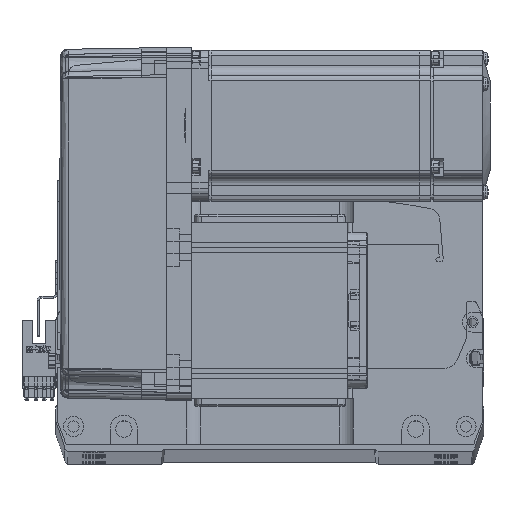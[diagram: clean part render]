
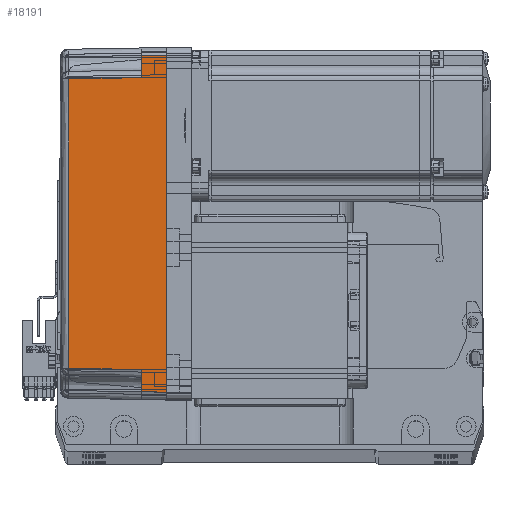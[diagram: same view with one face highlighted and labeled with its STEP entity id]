
A CAD part, top view. The second image highlights one B-rep face of the part: STEP entity #18191.
In plain terms, the highlighted planar face has unit normal (-0.018, 0, 1) as drawn and (0, 1, 0.017) by its records, which use the part's own axes.
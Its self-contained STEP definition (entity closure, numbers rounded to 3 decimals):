
#276 = EDGE_CURVE ( 'NONE', #10761, #34761, #1116, .T. ) ;
#1116 = LINE ( 'NONE', #67143, #30217 ) ;
#2188 = B_SPLINE_CURVE_WITH_KNOTS ( 'NONE', 3,
 ( #34161, #61432, #22941, #55929 ),
 .UNSPECIFIED., .F., .F.,
 ( 4, 4 ),
 ( 0., 1. ),
 .UNSPECIFIED. ) ;
#3911 = ORIENTED_EDGE ( 'NONE', *, *, #20641, .F. ) ;
#8429 = CARTESIAN_POINT ( 'NONE',  ( 58., 35.825, 10. ) ) ;
#10634 = CARTESIAN_POINT ( 'NONE',  ( -58., 35.825, 10. ) ) ;
#10761 = VERTEX_POINT ( 'NONE', #21350 ) ;
#10762 = ORIENTED_EDGE ( 'NONE', *, *, #28983, .T. ) ;
#11916 = AXIS2_PLACEMENT_3D ( 'NONE', #48736, #59254, #70216 ) ;
#12232 = CARTESIAN_POINT ( 'NONE',  ( 67., 36., 0. ) ) ;
#14303 = CARTESIAN_POINT ( 'NONE',  ( -66.826, 35.825, 10. ) ) ;
#16359 = DIRECTION ( 'NONE',  ( 0.017, -0.017, 1. ) ) ;
#18191 = ADVANCED_FACE ( 'NONE', ( #26222 ), #26671, .T. ) ;
#18592 = DIRECTION ( 'NONE',  ( 1., 0., 0. ) ) ;
#19557 = ORIENTED_EDGE ( 'NONE', *, *, #23854, .T. ) ;
#20641 = EDGE_CURVE ( 'NONE', #34761, #54351, #38649, .T. ) ;
#21350 = CARTESIAN_POINT ( 'NONE',  ( -67., 36., 0. ) ) ;
#22120 = DIRECTION ( 'NONE',  ( -0.017, -0.017, 1. ) ) ;
#22941 = CARTESIAN_POINT ( 'NONE',  ( 19.165, 35.316, 39.181 ) ) ;
#23854 = EDGE_CURVE ( 'NONE', #70790, #53364, #67820, .T. ) ;
#24073 = EDGE_CURVE ( 'NONE', #10761, #70790, #36951, .T. ) ;
#24934 = EDGE_CURVE ( 'NONE', #61692, #61191, #44540, .T. ) ;
#25025 = DIRECTION ( 'NONE',  ( 0.017, 0.017, -1. ) ) ;
#25356 = ORIENTED_EDGE ( 'NONE', *, *, #24934, .T. ) ;
#25508 = ORIENTED_EDGE ( 'NONE', *, *, #276, .F. ) ;
#26222 = FACE_OUTER_BOUND ( 'NONE', #62434, .T. ) ;
#26565 = LINE ( 'NONE', #10634, #33411 ) ;
#26671 = PLANE ( 'NONE',  #11916 ) ;
#27567 = CARTESIAN_POINT ( 'NONE',  ( 70., 35.825, 10. ) ) ;
#27825 = VERTEX_POINT ( 'NONE', #48211 ) ;
#28983 = EDGE_CURVE ( 'NONE', #27825, #61692, #2188, .T. ) ;
#30217 = VECTOR ( 'NONE', #18592, 1000. ) ;
#32872 = CARTESIAN_POINT ( 'NONE',  ( 67.001, 36.001, -0.052 ) ) ;
#33113 = EDGE_CURVE ( 'NONE', #53364, #27825, #26565, .T. ) ;
#33411 = VECTOR ( 'NONE', #16359, 1000. ) ;
#34161 = CARTESIAN_POINT ( 'NONE',  ( -57.495, 35.32, 38.985 ) ) ;
#34761 = VERTEX_POINT ( 'NONE', #12232 ) ;
#36176 = CARTESIAN_POINT ( 'NONE',  ( -67., 36., 0. ) ) ;
#36587 = VECTOR ( 'NONE', #63372, 1000. ) ;
#36951 = LINE ( 'NONE', #36176, #66028 ) ;
#37538 = CARTESIAN_POINT ( 'NONE',  ( 66.826, 35.825, 10. ) ) ;
#38127 = ORIENTED_EDGE ( 'NONE', *, *, #44307, .T. ) ;
#38649 = LINE ( 'NONE', #32872, #59261 ) ;
#40869 = CARTESIAN_POINT ( 'NONE',  ( 57.495, 35.32, 38.985 ) ) ;
#42641 = DIRECTION ( 'NONE',  ( 0.017, -0.017, 1. ) ) ;
#44307 = EDGE_CURVE ( 'NONE', #61191, #54351, #68220, .T. ) ;
#44540 = LINE ( 'NONE', #47536, #65970 ) ;
#45222 = ORIENTED_EDGE ( 'NONE', *, *, #24073, .T. ) ;
#47536 = CARTESIAN_POINT ( 'NONE',  ( 57.495, 35.32, 38.985 ) ) ;
#48211 = CARTESIAN_POINT ( 'NONE',  ( -57.495, 35.32, 38.985 ) ) ;
#48736 = CARTESIAN_POINT ( 'NONE',  ( 70., 36., 0. ) ) ;
#49461 = CARTESIAN_POINT ( 'NONE',  ( -58., 35.825, 10. ) ) ;
#51392 = CARTESIAN_POINT ( 'NONE',  ( 70., 35.825, 10. ) ) ;
#53364 = VERTEX_POINT ( 'NONE', #49461 ) ;
#54351 = VERTEX_POINT ( 'NONE', #37538 ) ;
#55929 = CARTESIAN_POINT ( 'NONE',  ( 57.495, 35.32, 38.985 ) ) ;
#58457 = VECTOR ( 'NONE', #65655, 1000. ) ;
#59254 = DIRECTION ( 'NONE',  ( 0., 1., 0.017 ) ) ;
#59261 = VECTOR ( 'NONE', #22120, 1000. ) ;
#61191 = VERTEX_POINT ( 'NONE', #8429 ) ;
#61432 = CARTESIAN_POINT ( 'NONE',  ( -19.165, 35.316, 39.181 ) ) ;
#61692 = VERTEX_POINT ( 'NONE', #40869 ) ;
#62434 = EDGE_LOOP ( 'NONE', ( #45222, #19557, #69072, #10762, #25356, #38127, #3911, #25508 ) ) ;
#63372 = DIRECTION ( 'NONE',  ( 1., 0., 0. ) ) ;
#65655 = DIRECTION ( 'NONE',  ( 1., 0., 0. ) ) ;
#65970 = VECTOR ( 'NONE', #25025, 1000. ) ;
#66028 = VECTOR ( 'NONE', #42641, 1000. ) ;
#67143 = CARTESIAN_POINT ( 'NONE',  ( 0., 36., 0. ) ) ;
#67820 = LINE ( 'NONE', #27567, #58457 ) ;
#68220 = LINE ( 'NONE', #51392, #36587 ) ;
#69072 = ORIENTED_EDGE ( 'NONE', *, *, #33113, .T. ) ;
#70216 = DIRECTION ( 'NONE',  ( 0., -0.017, 1. ) ) ;
#70790 = VERTEX_POINT ( 'NONE', #14303 ) ;
